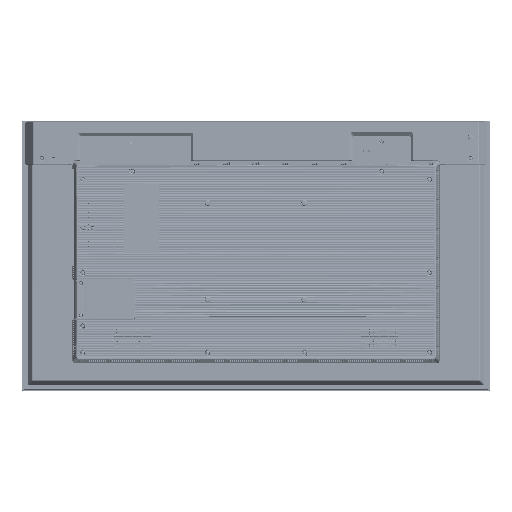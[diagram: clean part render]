
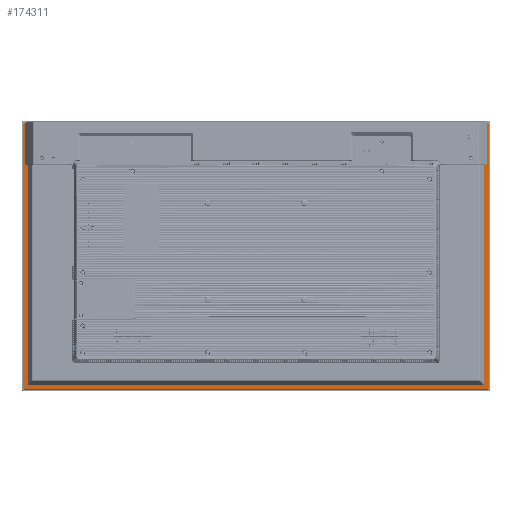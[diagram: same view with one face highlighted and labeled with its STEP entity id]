
A CAD part, front view. The second image highlights one B-rep face of the part: STEP entity #174311.
In plain terms, the highlighted planar face has unit normal (0, -1, 0).
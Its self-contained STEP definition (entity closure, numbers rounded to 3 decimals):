
#150886=PLANE('',#635063);
#168707=CIRCLE('',#635059,2.);
#168708=CIRCLE('',#635060,2.);
#168709=CIRCLE('',#635061,2.);
#168710=CIRCLE('',#635062,2.);
#174311=ADVANCED_FACE('',(#202618),#150886,.T.);
#202618=FACE_OUTER_BOUND('',#227064,.T.);
#227064=EDGE_LOOP('',(#357827,#357828,#357829,#357830,#357831,#357832,#357833,
#357834,#357835,#357836,#357837,#357838,#357839,#357840,#357841,#357842,
#357843,#357844,#357845,#357846,#357847,#357848));
#254853=ELLIPSE('',#635055,2.522,2.5);
#254854=ELLIPSE('',#635056,6.333,4.5);
#254855=ELLIPSE('',#635057,6.333,4.5);
#254856=ELLIPSE('',#635058,2.522,2.5);
#256571=LINE('',#775112,#306634);
#256572=LINE('',#775116,#306635);
#256946=LINE('',#776193,#307009);
#257058=LINE('',#777134,#307121);
#257059=LINE('',#777138,#307122);
#257060=LINE('',#777141,#307123);
#257061=LINE('',#777145,#307124);
#257062=LINE('',#777147,#307125);
#257063=LINE('',#777151,#307126);
#257064=LINE('',#777154,#307127);
#257065=LINE('',#777156,#307128);
#257066=LINE('',#777160,#307129);
#257067=LINE('',#777164,#307130);
#257068=LINE('',#777166,#307131);
#306634=VECTOR('',#664745,1.);
#306635=VECTOR('',#664750,1.);
#307009=VECTOR('',#665220,1.);
#307121=VECTOR('',#665406,1.);
#307122=VECTOR('',#665409,1.);
#307123=VECTOR('',#665412,1.);
#307124=VECTOR('',#665415,1.);
#307125=VECTOR('',#665416,1.);
#307126=VECTOR('',#665419,1.);
#307127=VECTOR('',#665422,1.);
#307128=VECTOR('',#665423,1.);
#307129=VECTOR('',#665426,1.);
#307130=VECTOR('',#665429,1.);
#307131=VECTOR('',#665430,1.);
#357827=ORIENTED_EDGE('',*,*,#547819,.T.);
#357828=ORIENTED_EDGE('',*,*,#548456,.T.);
#357829=ORIENTED_EDGE('',*,*,#548457,.F.);
#357830=ORIENTED_EDGE('',*,*,#548458,.F.);
#357831=ORIENTED_EDGE('',*,*,#548254,.T.);
#357832=ORIENTED_EDGE('',*,*,#548459,.T.);
#357833=ORIENTED_EDGE('',*,*,#548460,.T.);
#357834=ORIENTED_EDGE('',*,*,#548461,.T.);
#357835=ORIENTED_EDGE('',*,*,#548462,.T.);
#357836=ORIENTED_EDGE('',*,*,#548463,.F.);
#357837=ORIENTED_EDGE('',*,*,#548464,.F.);
#357838=ORIENTED_EDGE('',*,*,#548465,.T.);
#357839=ORIENTED_EDGE('',*,*,#547821,.T.);
#357840=ORIENTED_EDGE('',*,*,#548466,.T.);
#357841=ORIENTED_EDGE('',*,*,#548467,.F.);
#357842=ORIENTED_EDGE('',*,*,#548468,.T.);
#357843=ORIENTED_EDGE('',*,*,#548469,.T.);
#357844=ORIENTED_EDGE('',*,*,#548470,.T.);
#357845=ORIENTED_EDGE('',*,*,#548471,.T.);
#357846=ORIENTED_EDGE('',*,*,#548472,.T.);
#357847=ORIENTED_EDGE('',*,*,#548473,.F.);
#357848=ORIENTED_EDGE('',*,*,#548474,.T.);
#501352=VERTEX_POINT('',#775111);
#501353=VERTEX_POINT('',#775113);
#501354=VERTEX_POINT('',#775117);
#501355=VERTEX_POINT('',#775118);
#501755=VERTEX_POINT('',#776194);
#501756=VERTEX_POINT('',#776195);
#501937=VERTEX_POINT('',#777135);
#501938=VERTEX_POINT('',#777137);
#501939=VERTEX_POINT('',#777140);
#501940=VERTEX_POINT('',#777142);
#501941=VERTEX_POINT('',#777144);
#501942=VERTEX_POINT('',#777146);
#501943=VERTEX_POINT('',#777148);
#501944=VERTEX_POINT('',#777150);
#501945=VERTEX_POINT('',#777153);
#501946=VERTEX_POINT('',#777155);
#501947=VERTEX_POINT('',#777157);
#501948=VERTEX_POINT('',#777159);
#501949=VERTEX_POINT('',#777161);
#501950=VERTEX_POINT('',#777163);
#501951=VERTEX_POINT('',#777165);
#501952=VERTEX_POINT('',#777167);
#547819=EDGE_CURVE('',#501353,#501352,#256571,.T.);
#547821=EDGE_CURVE('',#501354,#501355,#256572,.T.);
#548254=EDGE_CURVE('',#501755,#501756,#256946,.T.);
#548456=EDGE_CURVE('',#501352,#501937,#257058,.T.);
#548457=EDGE_CURVE('',#501938,#501937,#254853,.T.);
#548458=EDGE_CURVE('',#501755,#501938,#257059,.T.);
#548459=EDGE_CURVE('',#501756,#501939,#254854,.T.);
#548460=EDGE_CURVE('',#501939,#501940,#257060,.T.);
#548461=EDGE_CURVE('',#501940,#501941,#254855,.T.);
#548462=EDGE_CURVE('',#501941,#501942,#257061,.T.);
#548463=EDGE_CURVE('',#501943,#501942,#257062,.T.);
#548464=EDGE_CURVE('',#501944,#501943,#254856,.T.);
#548465=EDGE_CURVE('',#501944,#501354,#257063,.T.);
#548466=EDGE_CURVE('',#501355,#501945,#168707,.T.);
#548467=EDGE_CURVE('',#501946,#501945,#257064,.T.);
#548468=EDGE_CURVE('',#501946,#501947,#257065,.T.);
#548469=EDGE_CURVE('',#501947,#501948,#168708,.T.);
#548470=EDGE_CURVE('',#501948,#501949,#257066,.T.);
#548471=EDGE_CURVE('',#501949,#501950,#168709,.T.);
#548472=EDGE_CURVE('',#501950,#501951,#257067,.T.);
#548473=EDGE_CURVE('',#501952,#501951,#257068,.T.);
#548474=EDGE_CURVE('',#501952,#501353,#168710,.T.);
#635055=AXIS2_PLACEMENT_3D('',#777136,#665407,#665408);
#635056=AXIS2_PLACEMENT_3D('',#777139,#665410,#665411);
#635057=AXIS2_PLACEMENT_3D('',#777143,#665413,#665414);
#635058=AXIS2_PLACEMENT_3D('',#777149,#665417,#665418);
#635059=AXIS2_PLACEMENT_3D('',#777152,#665420,#665421);
#635060=AXIS2_PLACEMENT_3D('',#777158,#665424,#665425);
#635061=AXIS2_PLACEMENT_3D('',#777162,#665427,#665428);
#635062=AXIS2_PLACEMENT_3D('',#777168,#665431,#665432);
#635063=AXIS2_PLACEMENT_3D('',#777169,#665433,#665434);
#664745=DIRECTION('',(-1.,0.,0.));
#664750=DIRECTION('',(-1.,0.,0.));
#665220=DIRECTION('',(0.,0.,-1.));
#665406=DIRECTION('',(0.,0.,-1.));
#665407=DIRECTION('',(0.,-1.,0.));
#665408=DIRECTION('',(-0.653,0.,0.757));
#665409=DIRECTION('',(0.987,0.,0.163));
#665410=DIRECTION('',(0.,1.,0.));
#665411=DIRECTION('',(0.707,0.,-0.707));
#665412=DIRECTION('',(-1.,0.,0.));
#665413=DIRECTION('',(0.,1.,0.));
#665414=DIRECTION('',(-0.707,0.,-0.707));
#665415=DIRECTION('',(0.,0.,1.));
#665416=DIRECTION('',(0.987,0.,-0.163));
#665417=DIRECTION('',(0.,-1.,0.));
#665418=DIRECTION('',(0.653,0.,0.757));
#665419=DIRECTION('',(0.,0.,1.));
#665420=DIRECTION('',(0.,-1.,0.));
#665421=DIRECTION('',(0.,0.,-1.));
#665422=DIRECTION('',(1.,0.,0.));
#665423=DIRECTION('',(0.,0.,-1.));
#665424=DIRECTION('',(0.,-1.,0.));
#665425=DIRECTION('',(0.,0.,-1.));
#665426=DIRECTION('',(1.,0.,0.));
#665427=DIRECTION('',(0.,-1.,0.));
#665428=DIRECTION('',(0.,0.,-1.));
#665429=DIRECTION('',(0.,0.,1.));
#665430=DIRECTION('',(1.,0.,0.));
#665431=DIRECTION('',(0.,-1.,0.));
#665432=DIRECTION('',(0.,0.,-1.));
#665433=DIRECTION('',(0.,-1.,0.));
#665434=DIRECTION('',(0.,0.,-1.));
#775111=CARTESIAN_POINT('',(476.933,-6.2,274.214));
#775112=CARTESIAN_POINT('',(-108.608,-6.2,274.214));
#775113=CARTESIAN_POINT('',(478.892,-6.2,274.214));
#775116=CARTESIAN_POINT('',(-108.608,-6.2,274.214));
#775117=CARTESIAN_POINT('',(-476.934,-6.2,274.214));
#775118=CARTESIAN_POINT('',(-478.892,-6.2,274.214));
#776193=CARTESIAN_POINT('',(472.113,-6.2,-263.619));
#776194=CARTESIAN_POINT('',(472.113,-6.2,187.824));
#776195=CARTESIAN_POINT('',(472.113,-6.2,-263.32));
#777134=CARTESIAN_POINT('',(476.941,-6.2,-273.706));
#777135=CARTESIAN_POINT('',(476.934,-6.2,190.734));
#777136=CARTESIAN_POINT('',(474.425,-6.2,190.756));
#777137=CARTESIAN_POINT('',(474.855,-6.2,188.277));
#777138=CARTESIAN_POINT('',(404.408,-6.2,176.625));
#777139=CARTESIAN_POINT('',(466.619,-6.2,-261.513));
#777140=CARTESIAN_POINT('',(468.426,-6.2,-267.007));
#777141=CARTESIAN_POINT('',(-108.608,-6.2,-267.007));
#777142=CARTESIAN_POINT('',(-468.426,-6.2,-267.007));
#777143=CARTESIAN_POINT('',(-466.619,-6.2,-261.513));
#777144=CARTESIAN_POINT('',(-472.113,-6.2,-263.32));
#777145=CARTESIAN_POINT('',(-472.113,-6.2,-263.619));
#777146=CARTESIAN_POINT('',(-472.113,-6.2,187.811));
#777147=CARTESIAN_POINT('',(527.867,-6.2,22.444));
#777148=CARTESIAN_POINT('',(-474.854,-6.2,188.264));
#777149=CARTESIAN_POINT('',(-474.423,-6.2,190.744));
#777150=CARTESIAN_POINT('',(-476.933,-6.2,190.722));
#777151=CARTESIAN_POINT('',(-476.927,-6.2,-273.718));
#777152=CARTESIAN_POINT('',(-478.892,-6.2,272.214));
#777153=CARTESIAN_POINT('',(-480.869,-6.2,272.514));
#777154=CARTESIAN_POINT('',(478.892,-6.2,272.514));
#777155=CARTESIAN_POINT('',(-480.892,-6.2,272.514));
#777156=CARTESIAN_POINT('',(-480.892,-6.2,273.014));
#777157=CARTESIAN_POINT('',(-480.892,-6.2,-273.706));
#777158=CARTESIAN_POINT('',(-478.892,-6.2,-273.706));
#777159=CARTESIAN_POINT('',(-478.892,-6.2,-275.706));
#777160=CARTESIAN_POINT('',(478.892,-6.2,-275.706));
#777161=CARTESIAN_POINT('',(478.892,-6.2,-275.706));
#777162=CARTESIAN_POINT('',(478.892,-6.2,-273.706));
#777163=CARTESIAN_POINT('',(480.892,-6.2,-273.706));
#777164=CARTESIAN_POINT('',(480.892,-6.2,273.014));
#777165=CARTESIAN_POINT('',(480.892,-6.2,272.514));
#777166=CARTESIAN_POINT('',(478.892,-6.2,272.514));
#777167=CARTESIAN_POINT('',(480.869,-6.2,272.514));
#777168=CARTESIAN_POINT('',(478.892,-6.2,272.214));
#777169=CARTESIAN_POINT('',(478.892,-6.2,-273.706));
